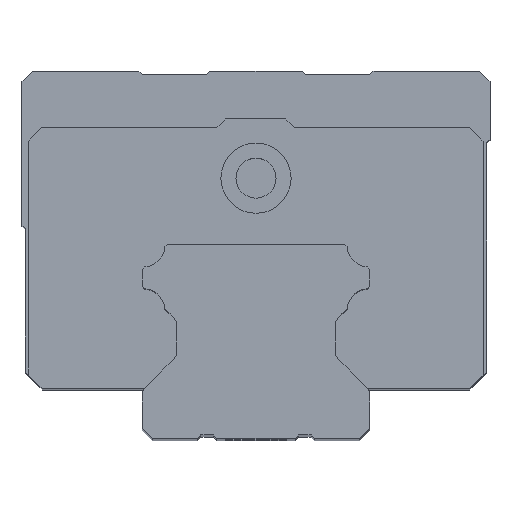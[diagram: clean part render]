
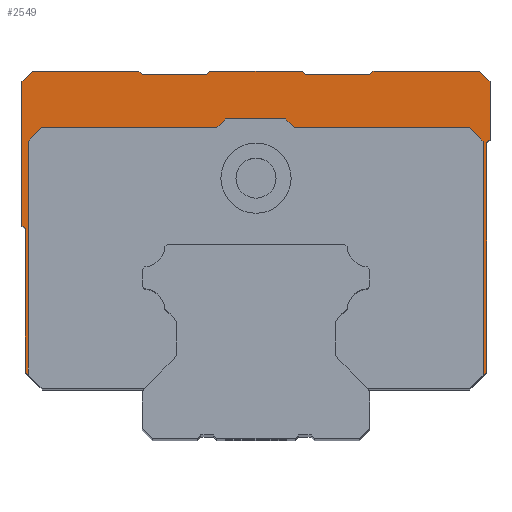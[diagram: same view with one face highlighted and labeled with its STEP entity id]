
A CAD part, top view. The second image highlights one B-rep face of the part: STEP entity #2549.
In plain terms, the highlighted planar face has unit normal (0, 0, 1).
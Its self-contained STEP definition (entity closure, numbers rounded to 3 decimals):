
#641=DIRECTION('',(0.707,0.707,0.));
#642=VECTOR('',#641,2.893);
#643=CARTESIAN_POINT('',(31.908,-21.5,40.));
#644=LINE('',#643,#642);
#645=DIRECTION('',(-0.707,0.707,0.));
#646=VECTOR('',#645,2.828);
#647=CARTESIAN_POINT('',(33.954,15.546,40.));
#648=LINE('',#647,#646);
#649=DIRECTION('',(-0.707,0.707,0.));
#650=VECTOR('',#649,1.838);
#651=CARTESIAN_POINT('',(5.754,17.546,40.));
#652=LINE('',#651,#650);
#653=DIRECTION('',(-0.707,-0.707,0.));
#654=VECTOR('',#653,1.838);
#655=CARTESIAN_POINT('',(-4.546,18.846,40.));
#656=LINE('',#655,#654);
#657=DIRECTION('',(-0.707,-0.707,0.));
#658=VECTOR('',#657,2.828);
#659=CARTESIAN_POINT('',(-32.046,17.546,40.));
#660=LINE('',#659,#658);
#661=DIRECTION('',(-0.707,0.707,0.));
#662=VECTOR('',#661,0.641);
#663=CARTESIAN_POINT('',(-34.046,-19.454,40.));
#664=LINE('',#663,#662);
#665=DIRECTION('',(0.,1.,0.));
#666=VECTOR('',#665,21.5);
#667=CARTESIAN_POINT('',(-34.5,-19.,40.));
#668=LINE('',#667,#666);
#669=DIRECTION('',(-0.707,0.707,0.));
#670=VECTOR('',#669,0.707);
#671=CARTESIAN_POINT('',(-34.5,2.5,40.));
#672=LINE('',#671,#670);
#673=DIRECTION('',(0.,1.,0.));
#674=VECTOR('',#673,21.5);
#675=CARTESIAN_POINT('',(-35.,3.,40.));
#676=LINE('',#675,#674);
#677=DIRECTION('',(0.707,0.707,0.));
#678=VECTOR('',#677,2.121);
#679=CARTESIAN_POINT('',(-35.,24.5,40.));
#680=LINE('',#679,#678);
#681=DIRECTION('',(1.,0.,0.));
#682=VECTOR('',#681,16.);
#683=CARTESIAN_POINT('',(-33.5,26.,40.));
#684=LINE('',#683,#682);
#685=DIRECTION('',(0.707,-0.707,0.));
#686=VECTOR('',#685,0.707);
#687=CARTESIAN_POINT('',(-17.5,26.,40.));
#688=LINE('',#687,#686);
#689=DIRECTION('',(1.,0.,0.));
#690=VECTOR('',#689,9.6);
#691=CARTESIAN_POINT('',(-17.,25.5,40.));
#692=LINE('',#691,#690);
#693=DIRECTION('',(0.707,0.707,0.));
#694=VECTOR('',#693,0.707);
#695=CARTESIAN_POINT('',(-7.4,25.5,40.));
#696=LINE('',#695,#694);
#697=DIRECTION('',(1.,0.,0.));
#698=VECTOR('',#697,13.8);
#699=CARTESIAN_POINT('',(-6.9,26.,40.));
#700=LINE('',#699,#698);
#701=DIRECTION('',(0.707,-0.707,0.));
#702=VECTOR('',#701,0.707);
#703=CARTESIAN_POINT('',(6.9,26.,40.));
#704=LINE('',#703,#702);
#705=DIRECTION('',(1.,0.,0.));
#706=VECTOR('',#705,9.6);
#707=CARTESIAN_POINT('',(7.4,25.5,40.));
#708=LINE('',#707,#706);
#709=DIRECTION('',(0.707,0.707,0.));
#710=VECTOR('',#709,0.707);
#711=CARTESIAN_POINT('',(17.,25.5,40.));
#712=LINE('',#711,#710);
#713=DIRECTION('',(1.,0.,0.));
#714=VECTOR('',#713,16.);
#715=CARTESIAN_POINT('',(17.5,26.,40.));
#716=LINE('',#715,#714);
#717=DIRECTION('',(0.707,-0.707,0.));
#718=VECTOR('',#717,2.121);
#719=CARTESIAN_POINT('',(33.5,26.,40.));
#720=LINE('',#719,#718);
#721=DIRECTION('',(0.,-1.,0.));
#722=VECTOR('',#721,8.7);
#723=CARTESIAN_POINT('',(35.,24.5,40.));
#724=LINE('',#723,#722);
#725=DIRECTION('',(-0.707,-0.707,0.));
#726=VECTOR('',#725,0.707);
#727=CARTESIAN_POINT('',(35.,15.8,40.));
#728=LINE('',#727,#726);
#729=DIRECTION('',(0.,-1.,0.));
#730=VECTOR('',#729,34.3);
#731=CARTESIAN_POINT('',(34.5,15.3,40.));
#732=LINE('',#731,#730);
#733=DIRECTION('',(-0.707,-0.707,0.));
#734=VECTOR('',#733,3.536);
#735=CARTESIAN_POINT('',(34.5,-19.,40.));
#736=LINE('',#735,#734);
#737=DIRECTION('',(-1.,0.,0.));
#738=VECTOR('',#737,0.092);
#739=CARTESIAN_POINT('',(32.,-21.5,40.));
#740=LINE('',#739,#738);
#741=DIRECTION('',(0.,-1.,0.));
#742=VECTOR('',#741,35.);
#743=CARTESIAN_POINT('',(33.954,15.546,40.));
#744=LINE('',#743,#742);
#763=DIRECTION('',(1.,0.,0.));
#764=VECTOR('',#763,26.2);
#765=CARTESIAN_POINT('',(5.754,17.546,40.));
#766=LINE('',#765,#764);
#775=DIRECTION('',(1.,0.,0.));
#776=VECTOR('',#775,9.);
#777=CARTESIAN_POINT('',(-4.546,18.846,40.));
#778=LINE('',#777,#776);
#797=DIRECTION('',(1.,0.,0.));
#798=VECTOR('',#797,26.2);
#799=CARTESIAN_POINT('',(-32.046,17.546,40.));
#800=LINE('',#799,#798);
#809=DIRECTION('',(0.,1.,0.));
#810=VECTOR('',#809,34.999);
#811=CARTESIAN_POINT('',(-34.046,-19.454,40.));
#812=LINE('',#811,#810);
#1343=CARTESIAN_POINT('',(-34.5,-19.,40.));
#1344=VERTEX_POINT('',#1343);
#1345=CARTESIAN_POINT('',(-34.046,-19.454,40.));
#1346=VERTEX_POINT('',#1345);
#1447=CARTESIAN_POINT('',(31.908,-21.5,40.));
#1448=VERTEX_POINT('',#1447);
#1449=CARTESIAN_POINT('',(32.,-21.5,40.));
#1450=VERTEX_POINT('',#1449);
#1469=CARTESIAN_POINT('',(33.954,-19.454,40.));
#1470=VERTEX_POINT('',#1469);
#1471=CARTESIAN_POINT('',(33.954,15.546,40.));
#1472=VERTEX_POINT('',#1471);
#1473=CARTESIAN_POINT('',(31.954,17.546,40.));
#1474=VERTEX_POINT('',#1473);
#1475=CARTESIAN_POINT('',(5.754,17.546,40.));
#1476=VERTEX_POINT('',#1475);
#1477=CARTESIAN_POINT('',(4.454,18.846,40.));
#1478=VERTEX_POINT('',#1477);
#1479=CARTESIAN_POINT('',(-4.546,18.846,40.));
#1480=VERTEX_POINT('',#1479);
#1481=CARTESIAN_POINT('',(-5.846,17.546,40.));
#1482=VERTEX_POINT('',#1481);
#1483=CARTESIAN_POINT('',(-32.046,17.546,40.));
#1484=VERTEX_POINT('',#1483);
#1485=CARTESIAN_POINT('',(-34.046,15.546,40.));
#1486=VERTEX_POINT('',#1485);
#1487=CARTESIAN_POINT('',(-34.5,2.5,40.));
#1488=VERTEX_POINT('',#1487);
#1489=CARTESIAN_POINT('',(-35.,3.,40.));
#1490=VERTEX_POINT('',#1489);
#1491=CARTESIAN_POINT('',(-35.,24.5,40.));
#1492=VERTEX_POINT('',#1491);
#1493=CARTESIAN_POINT('',(-33.5,26.,40.));
#1494=VERTEX_POINT('',#1493);
#1495=CARTESIAN_POINT('',(-17.5,26.,40.));
#1496=VERTEX_POINT('',#1495);
#1497=CARTESIAN_POINT('',(-17.,25.5,40.));
#1498=VERTEX_POINT('',#1497);
#1499=CARTESIAN_POINT('',(-7.4,25.5,40.));
#1500=VERTEX_POINT('',#1499);
#1501=CARTESIAN_POINT('',(-6.9,26.,40.));
#1502=VERTEX_POINT('',#1501);
#1503=CARTESIAN_POINT('',(6.9,26.,40.));
#1504=VERTEX_POINT('',#1503);
#1505=CARTESIAN_POINT('',(7.4,25.5,40.));
#1506=VERTEX_POINT('',#1505);
#1507=CARTESIAN_POINT('',(17.,25.5,40.));
#1508=VERTEX_POINT('',#1507);
#1509=CARTESIAN_POINT('',(17.5,26.,40.));
#1510=VERTEX_POINT('',#1509);
#1511=CARTESIAN_POINT('',(33.5,26.,40.));
#1512=VERTEX_POINT('',#1511);
#1513=CARTESIAN_POINT('',(35.,24.5,40.));
#1514=VERTEX_POINT('',#1513);
#1515=CARTESIAN_POINT('',(35.,15.8,40.));
#1516=VERTEX_POINT('',#1515);
#1517=CARTESIAN_POINT('',(34.5,15.3,40.));
#1518=VERTEX_POINT('',#1517);
#1519=CARTESIAN_POINT('',(34.5,-19.,40.));
#1520=VERTEX_POINT('',#1519);
#2485=CARTESIAN_POINT('',(0.,0.,40.));
#2486=DIRECTION('',(0.,0.,1.));
#2487=DIRECTION('',(1.,0.,0.));
#2488=AXIS2_PLACEMENT_3D('',#2485,#2486,#2487);
#2489=PLANE('',#2488);
#2490=ORIENTED_EDGE('',*,*,#2476,.T.);
#2492=ORIENTED_EDGE('',*,*,#2491,.F.);
#2494=ORIENTED_EDGE('',*,*,#2493,.T.);
#2496=ORIENTED_EDGE('',*,*,#2495,.F.);
#2498=ORIENTED_EDGE('',*,*,#2497,.T.);
#2500=ORIENTED_EDGE('',*,*,#2499,.F.);
#2502=ORIENTED_EDGE('',*,*,#2501,.T.);
#2504=ORIENTED_EDGE('',*,*,#2503,.F.);
#2506=ORIENTED_EDGE('',*,*,#2505,.T.);
#2508=ORIENTED_EDGE('',*,*,#2507,.F.);
#2509=ORIENTED_EDGE('',*,*,#1889,.T.);
#2511=ORIENTED_EDGE('',*,*,#2510,.T.);
#2513=ORIENTED_EDGE('',*,*,#2512,.T.);
#2515=ORIENTED_EDGE('',*,*,#2514,.T.);
#2517=ORIENTED_EDGE('',*,*,#2516,.T.);
#2519=ORIENTED_EDGE('',*,*,#2518,.T.);
#2521=ORIENTED_EDGE('',*,*,#2520,.T.);
#2523=ORIENTED_EDGE('',*,*,#2522,.T.);
#2525=ORIENTED_EDGE('',*,*,#2524,.T.);
#2527=ORIENTED_EDGE('',*,*,#2526,.T.);
#2529=ORIENTED_EDGE('',*,*,#2528,.T.);
#2531=ORIENTED_EDGE('',*,*,#2530,.T.);
#2533=ORIENTED_EDGE('',*,*,#2532,.T.);
#2535=ORIENTED_EDGE('',*,*,#2534,.T.);
#2537=ORIENTED_EDGE('',*,*,#2536,.T.);
#2539=ORIENTED_EDGE('',*,*,#2538,.T.);
#2541=ORIENTED_EDGE('',*,*,#2540,.T.);
#2543=ORIENTED_EDGE('',*,*,#2542,.T.);
#2545=ORIENTED_EDGE('',*,*,#2544,.T.);
#2546=ORIENTED_EDGE('',*,*,#2272,.T.);
#2547=EDGE_LOOP('',(#2490,#2492,#2494,#2496,#2498,#2500,#2502,#2504,#2506,#2508,
#2509,#2511,#2513,#2515,#2517,#2519,#2521,#2523,#2525,#2527,#2529,#2531,#2533,
#2535,#2537,#2539,#2541,#2543,#2545,#2546));
#2548=FACE_OUTER_BOUND('',#2547,.F.);
#2549=ADVANCED_FACE('',(#2548),#2489,.T.);
#1889=EDGE_CURVE('',#1346,#1344,#664,.T.);
#2272=EDGE_CURVE('',#1450,#1448,#740,.T.);
#2476=EDGE_CURVE('',#1448,#1470,#644,.T.);
#2491=EDGE_CURVE('',#1472,#1470,#744,.T.);
#2493=EDGE_CURVE('',#1472,#1474,#648,.T.);
#2495=EDGE_CURVE('',#1476,#1474,#766,.T.);
#2497=EDGE_CURVE('',#1476,#1478,#652,.T.);
#2499=EDGE_CURVE('',#1480,#1478,#778,.T.);
#2501=EDGE_CURVE('',#1480,#1482,#656,.T.);
#2503=EDGE_CURVE('',#1484,#1482,#800,.T.);
#2505=EDGE_CURVE('',#1484,#1486,#660,.T.);
#2507=EDGE_CURVE('',#1346,#1486,#812,.T.);
#2510=EDGE_CURVE('',#1344,#1488,#668,.T.);
#2512=EDGE_CURVE('',#1488,#1490,#672,.T.);
#2514=EDGE_CURVE('',#1490,#1492,#676,.T.);
#2516=EDGE_CURVE('',#1492,#1494,#680,.T.);
#2518=EDGE_CURVE('',#1494,#1496,#684,.T.);
#2520=EDGE_CURVE('',#1496,#1498,#688,.T.);
#2522=EDGE_CURVE('',#1498,#1500,#692,.T.);
#2524=EDGE_CURVE('',#1500,#1502,#696,.T.);
#2526=EDGE_CURVE('',#1502,#1504,#700,.T.);
#2528=EDGE_CURVE('',#1504,#1506,#704,.T.);
#2530=EDGE_CURVE('',#1506,#1508,#708,.T.);
#2532=EDGE_CURVE('',#1508,#1510,#712,.T.);
#2534=EDGE_CURVE('',#1510,#1512,#716,.T.);
#2536=EDGE_CURVE('',#1512,#1514,#720,.T.);
#2538=EDGE_CURVE('',#1514,#1516,#724,.T.);
#2540=EDGE_CURVE('',#1516,#1518,#728,.T.);
#2542=EDGE_CURVE('',#1518,#1520,#732,.T.);
#2544=EDGE_CURVE('',#1520,#1450,#736,.T.);
